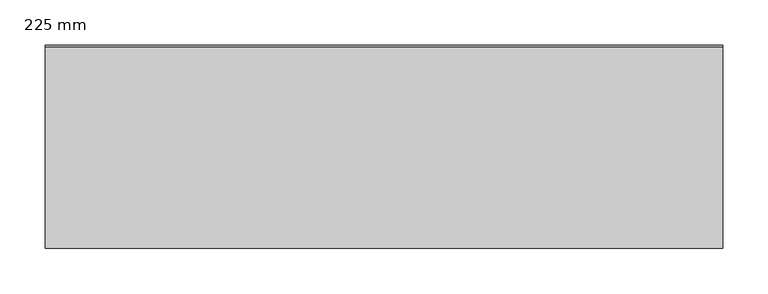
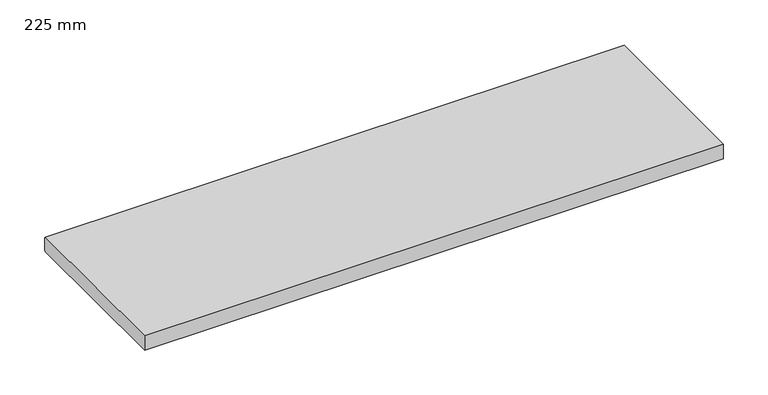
"""IFC4 building model written with IfcOpenShell, lengths in millimetres: proxy geometry, 400_35_NS_vensterbank : 225 mm."""

from ifc_helpers import new_model, si_unit, frame, origin, place, context, project, spatial, polyline, outline, extrude, source, transform, mapped, element, save


def proxy_225_mm_b38ed08b(model_context):
    return source(origin(), model_context, "Body", "SweptSolid", [
        extrude(outline(polyline([(0.0, 0.0), (0.0, 20.0), (223.0, 20.0), (225.0, 18.0), (225.0, 2.0), (223.0, 0.0), (0.0, 0.0)])), frame((-375.0, 0.0, 0.0), z_axis=(1.0, 0.0, 0.0), x_axis=(0.0, 1.0, 0.0)), (0.0, 0.0, 1.0), 750.0),
    ])


if __name__ == "__main__":
    model = new_model("IFC4")
    model_context = context("Model", 3, world=origin())
    ifc_project = project(units=[si_unit("LENGTHUNIT", "METRE", prefix="MILLI")], contexts=[model_context])
    site = spatial("IfcSite", under=ifc_project)
    building = spatial("IfcBuilding", under=site)
    placement = place(None, origin())
    proxy_225_mm_shape = proxy_225_mm_b38ed08b(model_context)
    element("IfcBuildingElementProxy", 1, Name="400_35_NS_vensterbank : 225 mm", ObjectType="400_35_NS_vensterbank : 225 mm", at=placement, inside=building, context=model_context, shape_type="MappedRepresentation", body=[
        mapped(proxy_225_mm_shape, transform((0.0, 0.0, 0.0), x_axis=(1.0, 0.0, 0.0), y_axis=(0.0, 1.0, 0.0), z_axis=(0.0, 0.0, 1.0))),
    ])
    save(model, "model.ifc")
